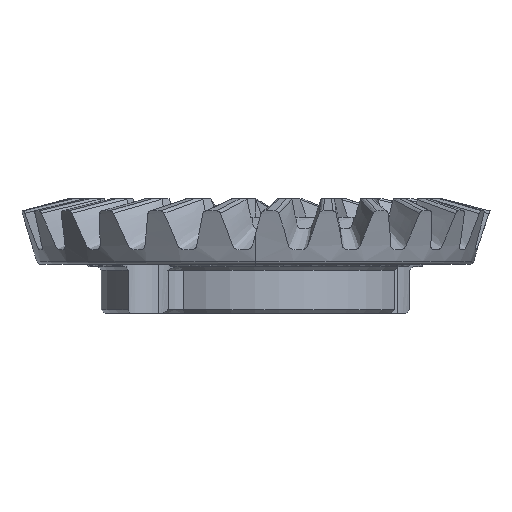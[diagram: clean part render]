
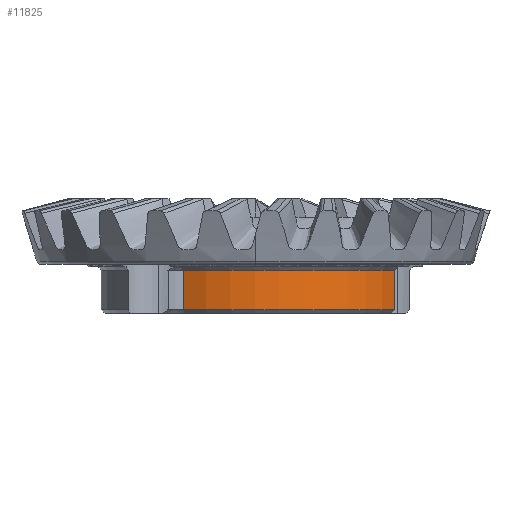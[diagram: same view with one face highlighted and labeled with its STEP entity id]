
A CAD part, left-side view. The second image highlights one B-rep face of the part: STEP entity #11825.
In plain terms, the highlighted cylindrical face has radius 12.5 mm (diameter 25 mm), a partial arc.
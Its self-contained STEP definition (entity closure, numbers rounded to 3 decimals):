
#1562 = VERTEX_POINT ( 'NONE', #2482 ) ;
#1615 = VERTEX_POINT ( 'NONE', #11879 ) ;
#1635 = VECTOR ( 'NONE', #12328, 1000. ) ;
#2482 = CARTESIAN_POINT ( 'NONE',  ( -5.397, -11.275, -13.2 ) ) ;
#2484 = AXIS2_PLACEMENT_3D ( 'NONE', #11249, #6361, #15778 ) ;
#2495 = EDGE_CURVE ( 'NONE', #1615, #13768, #16065, .T. ) ;
#2631 = AXIS2_PLACEMENT_3D ( 'NONE', #18262, #15300, #4137 ) ;
#3370 = CYLINDRICAL_SURFACE ( 'NONE', #9484, 12.5 ) ;
#3488 = CARTESIAN_POINT ( 'NONE',  ( -11.038, 5.866, -10. ) ) ;
#4137 = DIRECTION ( 'NONE',  ( -1., 0., 0. ) ) ;
#5347 = DIRECTION ( 'NONE',  ( 0., 0., 1. ) ) ;
#5892 = DIRECTION ( 'NONE',  ( 0., 0., 1. ) ) ;
#6361 = DIRECTION ( 'NONE',  ( 0., 0., -1. ) ) ;
#6439 = ORIENTED_EDGE ( 'NONE', *, *, #13034, .T. ) ;
#7296 = ORIENTED_EDGE ( 'NONE', *, *, #2495, .F. ) ;
#8935 = VECTOR ( 'NONE', #5892, 1000. ) ;
#9052 = CIRCLE ( 'NONE', #2484, 12.5 ) ;
#9484 = AXIS2_PLACEMENT_3D ( 'NONE', #16090, #5347, #17804 ) ;
#9531 = CIRCLE ( 'NONE', #2631, 12.5 ) ;
#11169 = CARTESIAN_POINT ( 'NONE',  ( -5.397, -11.275, -10. ) ) ;
#11249 = CARTESIAN_POINT ( 'NONE',  ( 0., 0., -10. ) ) ;
#11502 = EDGE_CURVE ( 'NONE', #20131, #1562, #13012, .T. ) ;
#11657 = ORIENTED_EDGE ( 'NONE', *, *, #11502, .F. ) ;
#11825 = ADVANCED_FACE ( 'NONE', ( #12272 ), #3370, .T. ) ;
#11879 = CARTESIAN_POINT ( 'NONE',  ( -11.038, 5.866, -13.2 ) ) ;
#12272 = FACE_OUTER_BOUND ( 'NONE', #16618, .T. ) ;
#12328 = DIRECTION ( 'NONE',  ( 0., 0., -1. ) ) ;
#13012 = LINE ( 'NONE', #18710, #1635 ) ;
#13034 = EDGE_CURVE ( 'NONE', #20131, #13768, #9052, .T. ) ;
#13601 = EDGE_CURVE ( 'NONE', #1615, #1562, #9531, .T. ) ;
#13763 = CARTESIAN_POINT ( 'NONE',  ( -11.038, 5.866, -10.5 ) ) ;
#13768 = VERTEX_POINT ( 'NONE', #3488 ) ;
#15300 = DIRECTION ( 'NONE',  ( 0., 0., 1. ) ) ;
#15778 = DIRECTION ( 'NONE',  ( 1., 0., 0. ) ) ;
#16065 = LINE ( 'NONE', #13763, #8935 ) ;
#16090 = CARTESIAN_POINT ( 'NONE',  ( 0., 0., -49.055 ) ) ;
#16618 = EDGE_LOOP ( 'NONE', ( #11657, #6439, #7296, #19723 ) ) ;
#17804 = DIRECTION ( 'NONE',  ( 1., 0., 0. ) ) ;
#18262 = CARTESIAN_POINT ( 'NONE',  ( 0., 0., -13.2 ) ) ;
#18710 = CARTESIAN_POINT ( 'NONE',  ( -5.397, -11.275, -10.5 ) ) ;
#19723 = ORIENTED_EDGE ( 'NONE', *, *, #13601, .T. ) ;
#20131 = VERTEX_POINT ( 'NONE', #11169 ) ;
